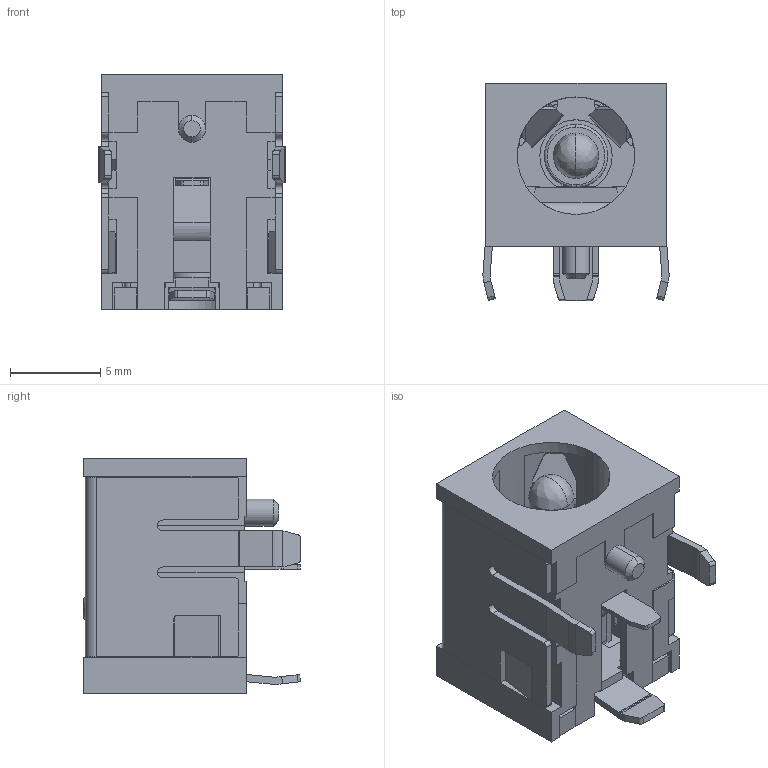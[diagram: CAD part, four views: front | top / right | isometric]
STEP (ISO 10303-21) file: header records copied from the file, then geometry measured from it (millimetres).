
FILE_DESCRIPTION (( 'STEP AP214' ), '1' );
FILE_NAME ('CUI_DEVICES_PJ-063BH.step', '2024-02-15T16:56:19', ( '' ), ( '' ), 'SwSTEP 2.0', 'SolidWorks 2023', '' );
FILE_SCHEMA (( 'AUTOMOTIVE_DESIGN' ));
Length unit declared in the file: inch
Products named in the file (1): CUI_DEVICES_PJ-063BH
Bounding box: 10.3 x 12 x 13 mm (x, y, z)
Volume: 644.5 mm3; surface area: 2141.4 mm2
Topology: 1 solids, 1 shells, 550 faces, 1612 edges, 1059 vertices
Faces by surface type: plane 365, cylinder 149, bspline 20, torus 14, cone 2
Entity records: 18814 total; most frequent: CARTESIAN_POINT 4045, ORIENTED_EDGE 3220, DIRECTION 2962, EDGE_CURVE 1610, VECTOR 1194, LINE 1194, VERTEX_POINT 1059, AXIS2_PLACEMENT_3D 884
